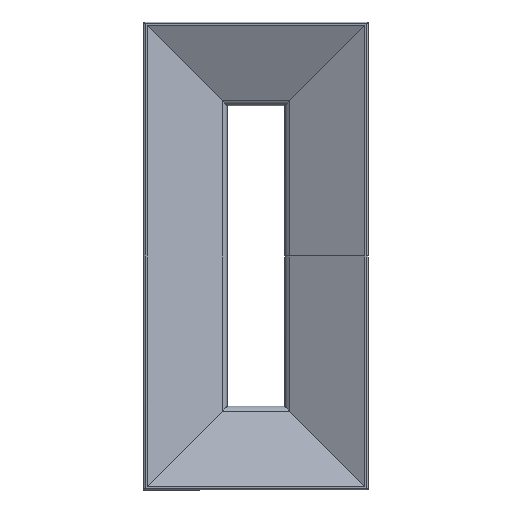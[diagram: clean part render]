
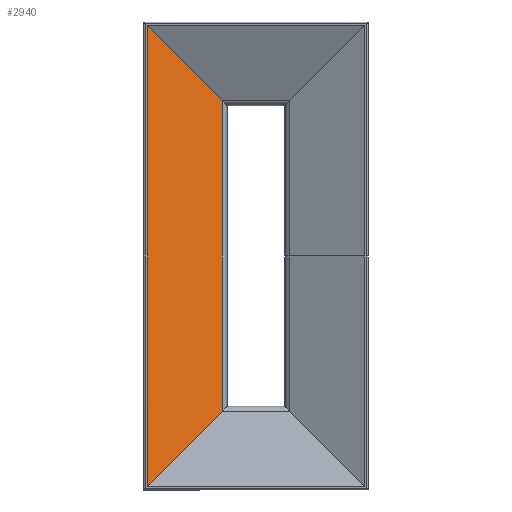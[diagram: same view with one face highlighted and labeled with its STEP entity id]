
A CAD part, front view. The second image highlights one B-rep face of the part: STEP entity #2940.
In plain terms, the highlighted planar face has unit normal (0.437, -0.899, 0).
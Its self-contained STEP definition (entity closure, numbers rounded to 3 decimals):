
#287 = CARTESIAN_POINT ( 'NONE',  ( -3.764, -21.946, 26.299 ) ) ;
#634 = VECTOR ( 'NONE', #1771, 1000. ) ;
#710 = VECTOR ( 'NONE', #3624, 1000. ) ;
#909 = CARTESIAN_POINT ( 'NONE',  ( 3.642, -18.344, 9.858 ) ) ;
#1205 = FACE_OUTER_BOUND ( 'NONE', #2774, .T. ) ;
#1563 = VECTOR ( 'NONE', #2913, 1000. ) ;
#1639 = AXIS2_PLACEMENT_3D ( 'NONE', #287, #3467, #1891 ) ;
#1771 = DIRECTION ( 'NONE',  ( 0.669, 0.325, 0.669 ) ) ;
#1798 = EDGE_CURVE ( 'NONE', #5039, #2685, #3815, .T. ) ;
#1891 = DIRECTION ( 'NONE',  ( 0.899, 0.437, 0. ) ) ;
#1979 = CARTESIAN_POINT ( 'NONE',  ( -3.764, -21.946, 26.299 ) ) ;
#2351 = ORIENTED_EDGE ( 'NONE', *, *, #3301, .T. ) ;
#2468 = CARTESIAN_POINT ( 'NONE',  ( -12.1, -26., -25.6 ) ) ;
#2493 = EDGE_CURVE ( 'NONE', #4536, #4554, #3218, .T. ) ;
#2685 = VERTEX_POINT ( 'NONE', #2974 ) ;
#2774 = EDGE_LOOP ( 'NONE', ( #2351, #4611, #4466, #3389 ) ) ;
#2913 = DIRECTION ( 'NONE',  ( 0., 0., -1. ) ) ;
#2940 = ADVANCED_FACE ( 'NONE', ( #1205 ), #3448, .T. ) ;
#2974 = CARTESIAN_POINT ( 'NONE',  ( -3.764, -21.946, -17.264 ) ) ;
#3218 = LINE ( 'NONE', #909, #710 ) ;
#3301 = EDGE_CURVE ( 'NONE', #4536, #5039, #3623, .T. ) ;
#3389 = ORIENTED_EDGE ( 'NONE', *, *, #2493, .F. ) ;
#3448 = PLANE ( 'NONE',  #1639 ) ;
#3467 = DIRECTION ( 'NONE',  ( 0.437, -0.899, 0. ) ) ;
#3623 = LINE ( 'NONE', #3652, #1563 ) ;
#3624 = DIRECTION ( 'NONE',  ( 0.669, 0.325, -0.669 ) ) ;
#3652 = CARTESIAN_POINT ( 'NONE',  ( -12.1, -26., 26.299 ) ) ;
#3815 = LINE ( 'NONE', #4098, #634 ) ;
#3892 = DIRECTION ( 'NONE',  ( 0., 0., -1. ) ) ;
#4098 = CARTESIAN_POINT ( 'NONE',  ( 15.714, -12.473, 2.214 ) ) ;
#4208 = LINE ( 'NONE', #1979, #4509 ) ;
#4466 = ORIENTED_EDGE ( 'NONE', *, *, #4673, .F. ) ;
#4509 = VECTOR ( 'NONE', #3892, 1000. ) ;
#4536 = VERTEX_POINT ( 'NONE', #4557 ) ;
#4554 = VERTEX_POINT ( 'NONE', #4952 ) ;
#4557 = CARTESIAN_POINT ( 'NONE',  ( -12.1, -26., 25.6 ) ) ;
#4611 = ORIENTED_EDGE ( 'NONE', *, *, #1798, .T. ) ;
#4673 = EDGE_CURVE ( 'NONE', #4554, #2685, #4208, .T. ) ;
#4952 = CARTESIAN_POINT ( 'NONE',  ( -3.764, -21.946, 17.264 ) ) ;
#5039 = VERTEX_POINT ( 'NONE', #2468 ) ;
